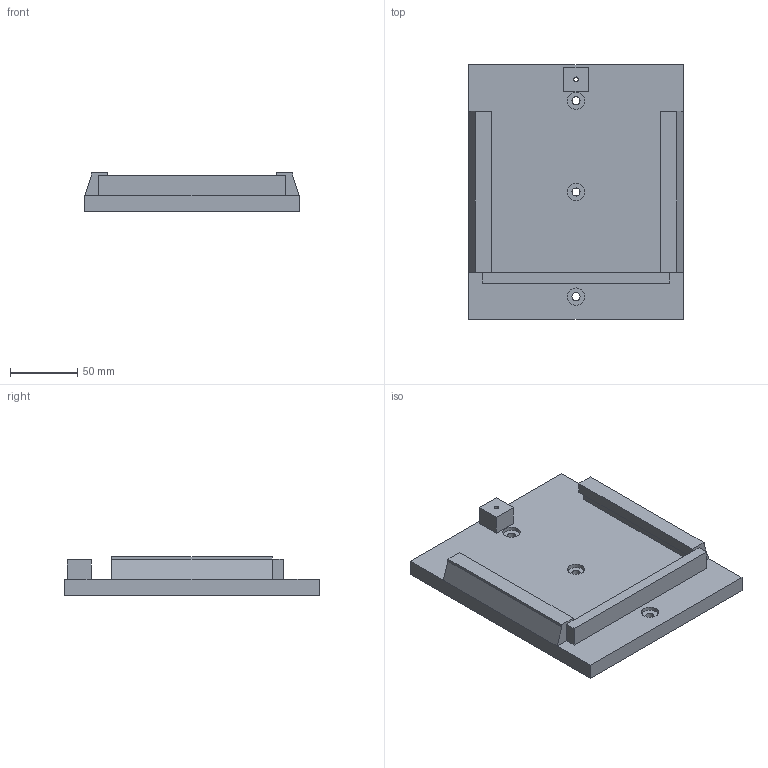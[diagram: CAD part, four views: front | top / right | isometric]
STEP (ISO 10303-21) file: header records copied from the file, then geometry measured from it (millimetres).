
FILE_DESCRIPTION(('Open CASCADE Model'),'2;1');
FILE_NAME('Open CASCADE Shape Model','2026-10-05T06:01:09',('Author'),( 'Open CASCADE'),'Open CASCADE STEP processor 7.8','Open CASCADE 7.8' ,'Unknown');
FILE_SCHEMA(('AUTOMOTIVE_DESIGN { 1 0 10303 214 1 1 1 1 }'));
Length unit declared in the file: millimetre
Products named in the file (1): Open CASCADE STEP translator 7.8 1
Bounding box: 160 x 190 x 29 mm (x, y, z)
Volume: 431028 mm3; surface area: 85928.7 mm2
Topology: 1 solids, 1 shells, 53 faces, 132 edges, 86 vertices
Faces by surface type: plane 45, cylinder 8
Full cylindrical faces by diameter (mm): 3.4 x2, 6 x3, 13 x3
Entity records: 3314 total; most frequent: CARTESIAN_POINT 594, DIRECTION 502, LINE 354, VECTOR 354, ORIENTED_EDGE 264, PCURVE 264, DEFINITIONAL_REPRESENTATION 264, EDGE_CURVE 132
